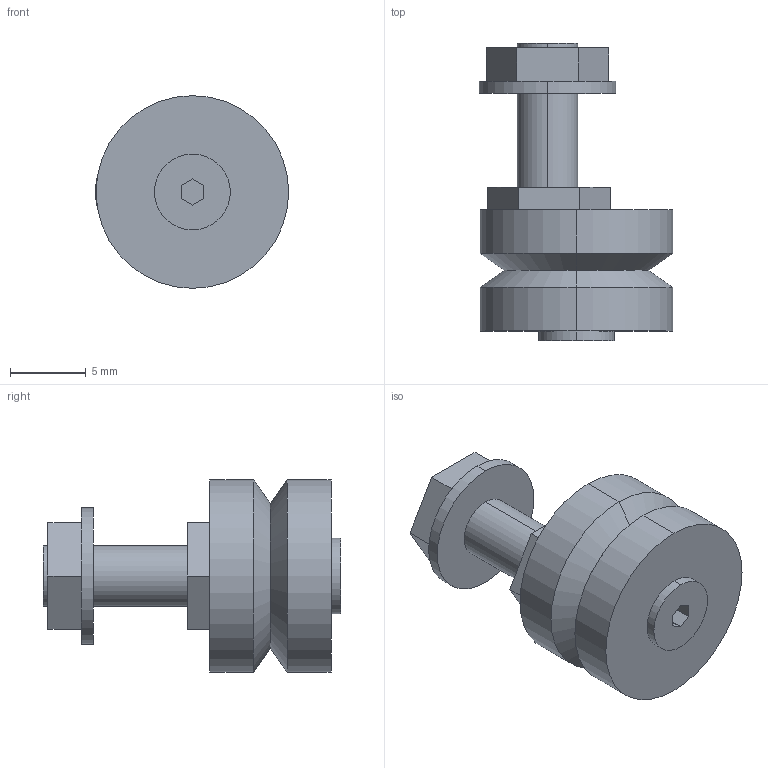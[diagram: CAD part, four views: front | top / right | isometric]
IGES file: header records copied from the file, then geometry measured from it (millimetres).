
Start section: 3D InterOp IGES (Version 21 0 1), Spatial Corp. Copyright (c) 1999-2007.
Global section: file name: RLJ13DENS.igs; native system: Spatial Corp.; preprocessor: 3D InterOp GENERIC/IGES 3.0; author: Noname; organization: Noname; date: 20220627.163729; units: millimetre
Bounding box: 12.75 x 19.6 x 12.7 mm (x, y, z)
Surface area: 935 mm2 (no closed solid volume)
Topology: 0 solids, 0 shells, 43 faces, 192 edges, 192 vertices
Faces by surface type: extrusion 27, revolution 16
